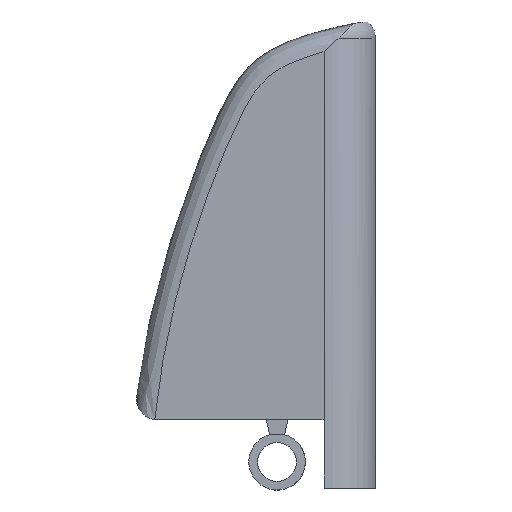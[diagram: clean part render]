
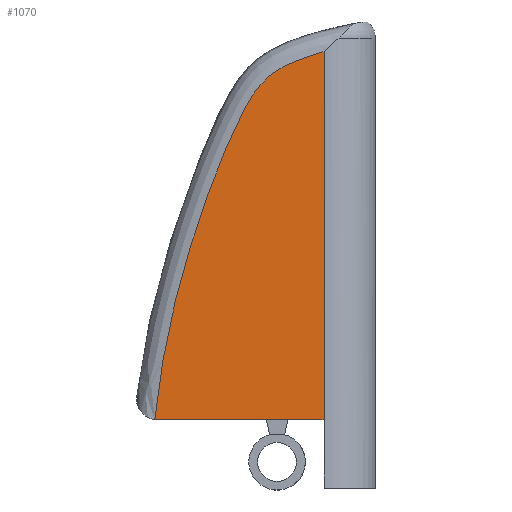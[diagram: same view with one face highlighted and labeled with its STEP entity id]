
A CAD part, front view. The second image highlights one B-rep face of the part: STEP entity #1070.
In plain terms, the highlighted planar face has unit normal (0, -1, 0).
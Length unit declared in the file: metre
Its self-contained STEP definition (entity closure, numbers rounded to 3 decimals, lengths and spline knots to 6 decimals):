
#42=B_SPLINE_CURVE_WITH_KNOTS('',3,(#1727,#1728,#1729,#1730,#1731,#1732,
#1733,#1734,#1735,#1736,#1737,#1738,#1739),.UNSPECIFIED.,.F.,.F.,(4,1,1,
1,1,1,1,1,1,1,4),(0.,0.00266,0.005321,0.007981,
0.010642,0.013302,0.015963,0.021284,
0.026605,0.031926,0.042568),.UNSPECIFIED.);
#55=CIRCLE('',#1144,0.002044);
#145=ORIENTED_EDGE('',*,*,#463,.T.);
#146=ORIENTED_EDGE('',*,*,#464,.T.);
#147=ORIENTED_EDGE('',*,*,#411,.F.);
#148=ORIENTED_EDGE('',*,*,#465,.T.);
#411=EDGE_CURVE('',#574,#575,#679,.T.);
#463=EDGE_CURVE('',#618,#619,#42,.T.);
#464=EDGE_CURVE('',#619,#575,#55,.F.);
#465=EDGE_CURVE('',#574,#618,#717,.F.);
#574=VERTEX_POINT('',#1512);
#575=VERTEX_POINT('',#1514);
#618=VERTEX_POINT('',#1740);
#619=VERTEX_POINT('',#1741);
#679=LINE('',#1513,#791);
#717=LINE('',#1743,#829);
#791=VECTOR('',#1228,1.);
#829=VECTOR('',#1282,1.);
#907=EDGE_LOOP('',(#145,#146,#147,#148));
#970=FACE_BOUND('',#907,.T.);
#1030=PLANE('',#1143);
#1070=ADVANCED_FACE('',(#970),#1030,.F.);
#1143=AXIS2_PLACEMENT_3D('',#1726,#1278,#1279);
#1144=AXIS2_PLACEMENT_3D('',#1742,#1280,#1281);
#1228=DIRECTION('',(-1.,0.,0.));
#1278=DIRECTION('',(0.,1.,0.));
#1279=DIRECTION('',(0.,0.,1.));
#1280=DIRECTION('',(0.,1.,0.));
#1281=DIRECTION('',(0.,0.,1.));
#1282=DIRECTION('',(0.,0.,-1.));
#1512=CARTESIAN_POINT('',(0.028508,0.011143,0.129672));
#1513=CARTESIAN_POINT('',(0.033617,0.011143,0.129672));
#1514=CARTESIAN_POINT('',(0.011931,0.011143,0.129672));
#1726=CARTESIAN_POINT('',(0.033617,0.011143,0.148265));
#1727=CARTESIAN_POINT('',(0.028508,0.011143,0.166232));
#1728=CARTESIAN_POINT('',(0.027654,0.011143,0.165994));
#1729=CARTESIAN_POINT('',(0.025967,0.011143,0.165458));
#1730=CARTESIAN_POINT('',(0.023531,0.011143,0.164348));
#1731=CARTESIAN_POINT('',(0.021628,0.011143,0.16244));
#1732=CARTESIAN_POINT('',(0.020344,0.011143,0.160098));
#1733=CARTESIAN_POINT('',(0.019225,0.011143,0.157703));
#1734=CARTESIAN_POINT('',(0.017845,0.011143,0.154441));
#1735=CARTESIAN_POINT('',(0.016308,0.011143,0.150298));
#1736=CARTESIAN_POINT('',(0.014711,0.011143,0.145237));
#1737=CARTESIAN_POINT('',(0.012923,0.011143,0.138425));
#1738=CARTESIAN_POINT('',(0.012064,0.011143,0.133208));
#1739=CARTESIAN_POINT('',(0.011699,0.011143,0.129685));
#1740=CARTESIAN_POINT('',(0.028508,0.011143,0.166232));
#1741=CARTESIAN_POINT('',(0.011699,0.011143,0.129685));
#1742=CARTESIAN_POINT('',(0.011931,0.011143,0.131715));
#1743=CARTESIAN_POINT('',(0.028508,0.011143,0.161444));
